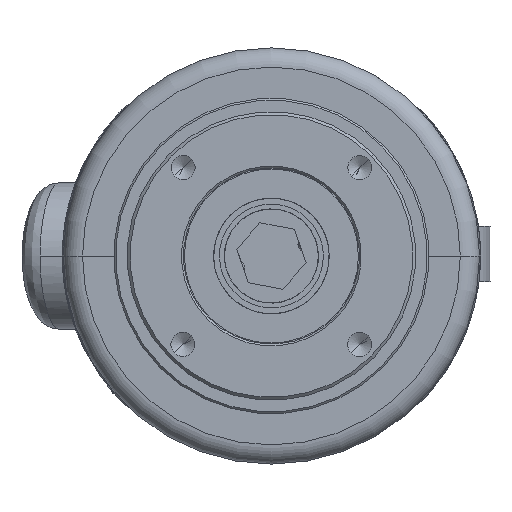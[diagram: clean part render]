
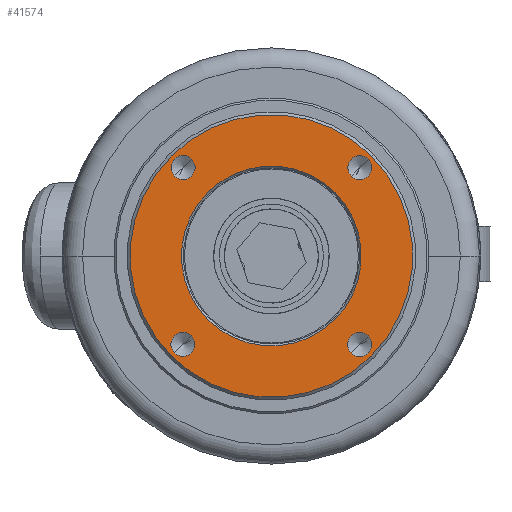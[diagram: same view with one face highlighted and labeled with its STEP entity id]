
A CAD part, front view. The second image highlights one B-rep face of the part: STEP entity #41574.
In plain terms, the highlighted planar face has unit normal (0, -1, 0).
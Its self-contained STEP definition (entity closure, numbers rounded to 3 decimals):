
#347 = CARTESIAN_POINT ( 'NONE',  ( -15.423, 179.305, -16.95 ) ) ;
#1663 = AXIS2_PLACEMENT_3D ( 'NONE', #112630, #101042, #89395 ) ;
#1757 = VERTEX_POINT ( 'NONE', #82472 ) ;
#1885 = DIRECTION ( 'NONE',  ( 0.708, 0., 0.707 ) ) ;
#2137 = VERTEX_POINT ( 'NONE', #105081 ) ;
#2844 = DIRECTION ( 'NONE',  ( 0.708, 0., 0.707 ) ) ;
#2971 = EDGE_CURVE ( 'NONE', #1757, #2137, #63745, .T. ) ;
#3480 = EDGE_CURVE ( 'NONE', #52733, #40654, #90343, .T. ) ;
#3747 = CARTESIAN_POINT ( 'NONE',  ( -24.607, 179.305, -7.75 ) ) ;
#3968 = VERTEX_POINT ( 'NONE', #50534 ) ;
#4151 = ORIENTED_EDGE ( 'NONE', *, *, #77641, .F. ) ;
#4957 = EDGE_LOOP ( 'NONE', ( #53579, #101666 ) ) ;
#5778 = CARTESIAN_POINT ( 'NONE',  ( -24.607, 179.305, -7.75 ) ) ;
#8271 = CARTESIAN_POINT ( 'NONE',  ( -33.807, 179.305, -16.935 ) ) ;
#8532 = CIRCLE ( 'NONE', #70964, 9.35 ) ;
#9876 = CIRCLE ( 'NONE', #50899, 1.25 ) ;
#9907 = CIRCLE ( 'NONE', #100435, 1.25 ) ;
#10485 = AXIS2_PLACEMENT_3D ( 'NONE', #5778, #96073, #84404 ) ;
#10756 = ORIENTED_EDGE ( 'NONE', *, *, #36228, .F. ) ;
#11127 = VERTEX_POINT ( 'NONE', #32199 ) ;
#12217 = DIRECTION ( 'NONE',  ( -0.708, 0., -0.707 ) ) ;
#13440 = DIRECTION ( 'NONE',  ( 0., -1., 0. ) ) ;
#14079 = VERTEX_POINT ( 'NONE', #96991 ) ;
#14451 = DIRECTION ( 'NONE',  ( 0., -1., 0. ) ) ;
#14931 = DIRECTION ( 'NONE',  ( 0.708, 0., 0.707 ) ) ;
#16373 = VERTEX_POINT ( 'NONE', #20517 ) ;
#16591 = CARTESIAN_POINT ( 'NONE',  ( -14.538, 179.305, -16.067 ) ) ;
#16824 = DIRECTION ( 'NONE',  ( -0.708, 0., -0.707 ) ) ;
#17341 = AXIS2_PLACEMENT_3D ( 'NONE', #49123, #37408, #25794 ) ;
#19029 = ORIENTED_EDGE ( 'NONE', *, *, #84391, .T. ) ;
#20517 = CARTESIAN_POINT ( 'NONE',  ( -16.292, 179.305, 0.552 ) ) ;
#21244 = VERTEX_POINT ( 'NONE', #70661 ) ;
#22468 = ORIENTED_EDGE ( 'NONE', *, *, #31273, .T. ) ;
#23365 = VERTEX_POINT ( 'NONE', #97893 ) ;
#23841 = DIRECTION ( 'NONE',  ( 0., -1., 0. ) ) ;
#25070 = CARTESIAN_POINT ( 'NONE',  ( -15.423, 179.305, -16.95 ) ) ;
#25241 = DIRECTION ( 'NONE',  ( 0.708, 0., 0.707 ) ) ;
#25794 = DIRECTION ( 'NONE',  ( -0.708, 0., -0.707 ) ) ;
#26581 = DIRECTION ( 'NONE',  ( 0., -1., 0. ) ) ;
#27369 = AXIS2_PLACEMENT_3D ( 'NONE', #37682, #14451, #2844 ) ;
#27402 = ORIENTED_EDGE ( 'NONE', *, *, #69065, .F. ) ;
#28430 = DIRECTION ( 'NONE',  ( 0., 1., 0. ) ) ;
#31273 = EDGE_CURVE ( 'NONE', #3968, #23365, #98915, .T. ) ;
#32199 = CARTESIAN_POINT ( 'NONE',  ( -32.923, 179.305, -16.052 ) ) ;
#33125 = EDGE_LOOP ( 'NONE', ( #56097, #77833 ) ) ;
#35469 = CARTESIAN_POINT ( 'NONE',  ( -24.607, 179.305, -7.75 ) ) ;
#35912 = AXIS2_PLACEMENT_3D ( 'NONE', #83367, #36866, #25241 ) ;
#36228 = EDGE_CURVE ( 'NONE', #14079, #16373, #77418, .T. ) ;
#36866 = DIRECTION ( 'NONE',  ( 0., -1., 0. ) ) ;
#37408 = DIRECTION ( 'NONE',  ( 0., -1., 0. ) ) ;
#37682 = CARTESIAN_POINT ( 'NONE',  ( -33.792, 179.305, 1.45 ) ) ;
#38177 = CARTESIAN_POINT ( 'NONE',  ( -33.792, 179.305, 1.45 ) ) ;
#38465 = AXIS2_PLACEMENT_3D ( 'NONE', #8271, #110072, #98474 ) ;
#40084 = CARTESIAN_POINT ( 'NONE',  ( -12.93, 179.305, 3.907 ) ) ;
#40654 = VERTEX_POINT ( 'NONE', #76125 ) ;
#41574 = ADVANCED_FACE ( 'NONE', ( #61483, #81907, #90693, #96547, #102410, #105315 ), #51802, .F. ) ;
#44071 = CIRCLE ( 'NONE', #35912, 1.25 ) ;
#45386 = EDGE_CURVE ( 'NONE', #67148, #11127, #87096, .T. ) ;
#46926 = DIRECTION ( 'NONE',  ( 0.708, 0., 0.707 ) ) ;
#49123 = CARTESIAN_POINT ( 'NONE',  ( -24.607, 179.305, -7.75 ) ) ;
#50420 = CIRCLE ( 'NONE', #62528, 1.25 ) ;
#50534 = CARTESIAN_POINT ( 'NONE',  ( -35.01, 179.305, -18.136 ) ) ;
#50899 = AXIS2_PLACEMENT_3D ( 'NONE', #347, #102172, #90541 ) ;
#51802 = PLANE ( 'NONE',  #93616 ) ;
#52733 = VERTEX_POINT ( 'NONE', #98153 ) ;
#53579 = ORIENTED_EDGE ( 'NONE', *, *, #77008, .F. ) ;
#55322 = EDGE_LOOP ( 'NONE', ( #22468, #19029 ) ) ;
#56097 = ORIENTED_EDGE ( 'NONE', *, *, #2971, .T. ) ;
#58587 = DIRECTION ( 'NONE',  ( 0., -1., 0. ) ) ;
#59205 = DIRECTION ( 'NONE',  ( -0.708, 0., -0.707 ) ) ;
#59757 = CIRCLE ( 'NONE', #111360, 14.7 ) ;
#60661 = EDGE_CURVE ( 'NONE', #77856, #21244, #50420, .T. ) ;
#61483 = FACE_BOUND ( 'NONE', #33125, .T. ) ;
#62528 = AXIS2_PLACEMENT_3D ( 'NONE', #25070, #13440, #1885 ) ;
#63745 = CIRCLE ( 'NONE', #10485, 9.35 ) ;
#64297 = EDGE_CURVE ( 'NONE', #21244, #77856, #9876, .T. ) ;
#66973 = EDGE_LOOP ( 'NONE', ( #27402, #73573 ) ) ;
#67148 = VERTEX_POINT ( 'NONE', #105792 ) ;
#67177 = CIRCLE ( 'NONE', #103029, 1.25 ) ;
#69065 = EDGE_CURVE ( 'NONE', #40654, #52733, #67177, .T. ) ;
#70224 = CARTESIAN_POINT ( 'NONE',  ( -15.407, 179.305, 1.435 ) ) ;
#70661 = CARTESIAN_POINT ( 'NONE',  ( -16.307, 179.305, -17.833 ) ) ;
#70841 = DIRECTION ( 'NONE',  ( 0., 1., 0. ) ) ;
#70964 = AXIS2_PLACEMENT_3D ( 'NONE', #3747, #70841, #59205 ) ;
#73573 = ORIENTED_EDGE ( 'NONE', *, *, #3480, .F. ) ;
#75271 = EDGE_LOOP ( 'NONE', ( #10756, #4151 ) ) ;
#76125 = CARTESIAN_POINT ( 'NONE',  ( -32.907, 179.305, 2.333 ) ) ;
#77008 = EDGE_CURVE ( 'NONE', #11127, #67148, #44071, .T. ) ;
#77418 = CIRCLE ( 'NONE', #1663, 1.25 ) ;
#77641 = EDGE_CURVE ( 'NONE', #16373, #14079, #9907, .T. ) ;
#77833 = ORIENTED_EDGE ( 'NONE', *, *, #94716, .T. ) ;
#77856 = VERTEX_POINT ( 'NONE', #16591 ) ;
#81907 = FACE_OUTER_BOUND ( 'NONE', #55322, .T. ) ;
#82472 = CARTESIAN_POINT ( 'NONE',  ( -17.99, 179.305, -1.144 ) ) ;
#83367 = CARTESIAN_POINT ( 'NONE',  ( -33.807, 179.305, -16.935 ) ) ;
#84391 = EDGE_CURVE ( 'NONE', #23365, #3968, #59757, .T. ) ;
#84404 = DIRECTION ( 'NONE',  ( -0.708, 0., -0.707 ) ) ;
#87096 = CIRCLE ( 'NONE', #38465, 1.25 ) ;
#88990 = EDGE_LOOP ( 'NONE', ( #99485, #103385 ) ) ;
#89395 = DIRECTION ( 'NONE',  ( 0.708, 0., 0.707 ) ) ;
#90343 = CIRCLE ( 'NONE', #27369, 1.25 ) ;
#90541 = DIRECTION ( 'NONE',  ( 0.708, 0., 0.707 ) ) ;
#90693 = FACE_BOUND ( 'NONE', #88990, .T. ) ;
#93616 = AXIS2_PLACEMENT_3D ( 'NONE', #40084, #28430, #16824 ) ;
#94716 = EDGE_CURVE ( 'NONE', #2137, #1757, #8532, .T. ) ;
#96073 = DIRECTION ( 'NONE',  ( 0., 1., 0. ) ) ;
#96547 = FACE_BOUND ( 'NONE', #75271, .T. ) ;
#96991 = CARTESIAN_POINT ( 'NONE',  ( -14.522, 179.305, 2.318 ) ) ;
#97893 = CARTESIAN_POINT ( 'NONE',  ( -14.204, 179.305, 2.636 ) ) ;
#98153 = CARTESIAN_POINT ( 'NONE',  ( -34.676, 179.305, 0.567 ) ) ;
#98474 = DIRECTION ( 'NONE',  ( 0.708, 0., 0.707 ) ) ;
#98915 = CIRCLE ( 'NONE', #17341, 14.7 ) ;
#99485 = ORIENTED_EDGE ( 'NONE', *, *, #60661, .F. ) ;
#100435 = AXIS2_PLACEMENT_3D ( 'NONE', #70224, #58587, #46926 ) ;
#101042 = DIRECTION ( 'NONE',  ( 0., -1., 0. ) ) ;
#101666 = ORIENTED_EDGE ( 'NONE', *, *, #45386, .F. ) ;
#102172 = DIRECTION ( 'NONE',  ( 0., -1., 0. ) ) ;
#102410 = FACE_BOUND ( 'NONE', #66973, .T. ) ;
#103029 = AXIS2_PLACEMENT_3D ( 'NONE', #38177, #26581, #14931 ) ;
#103385 = ORIENTED_EDGE ( 'NONE', *, *, #64297, .F. ) ;
#105081 = CARTESIAN_POINT ( 'NONE',  ( -31.224, 179.305, -14.356 ) ) ;
#105315 = FACE_BOUND ( 'NONE', #4957, .T. ) ;
#105792 = CARTESIAN_POINT ( 'NONE',  ( -34.692, 179.305, -17.818 ) ) ;
#110072 = DIRECTION ( 'NONE',  ( 0., -1., 0. ) ) ;
#111360 = AXIS2_PLACEMENT_3D ( 'NONE', #35469, #23841, #12217 ) ;
#112630 = CARTESIAN_POINT ( 'NONE',  ( -15.407, 179.305, 1.435 ) ) ;
